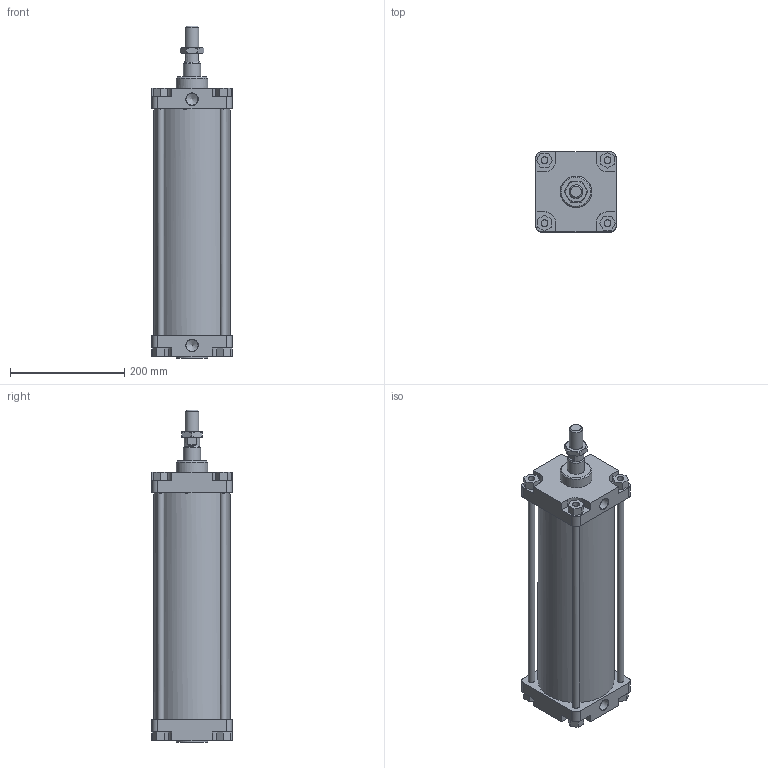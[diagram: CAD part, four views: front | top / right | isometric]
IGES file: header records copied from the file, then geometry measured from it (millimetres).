
Global section: file name: 1304_125_0300_01A; native system: Autodesk Inventor 2014; preprocessor: unknown; author: A. Manieri; date: 20161124.142442; units: millimetre
Bounding box: 140 x 140 x 580 mm (x, y, z)
Volume: 3610430.5 mm3; surface area: 636742.8 mm2
Topology: 9 solids, 9 shells, 175 faces, 440 edges, 295 vertices
Faces by surface type: bspline 175
